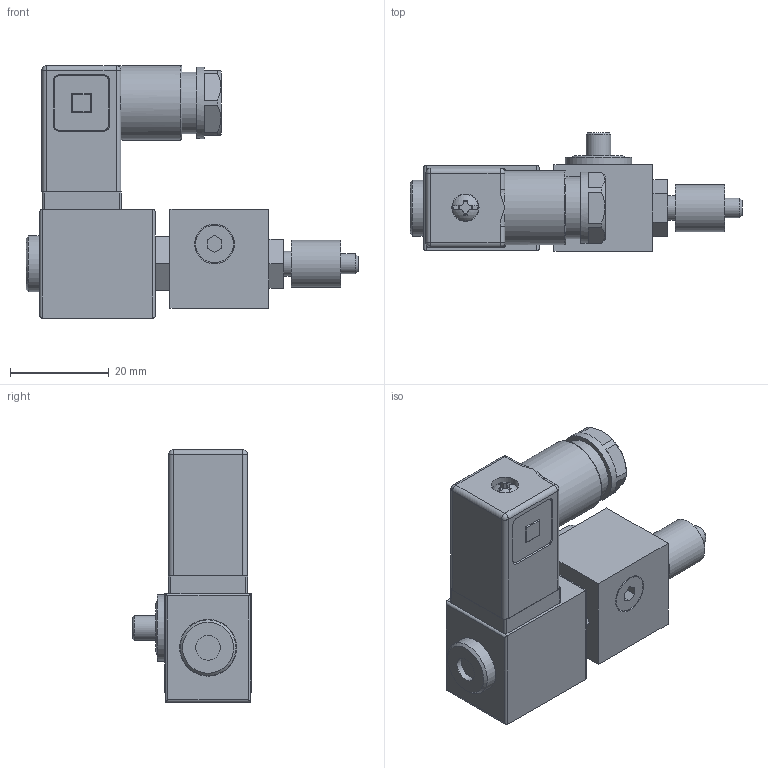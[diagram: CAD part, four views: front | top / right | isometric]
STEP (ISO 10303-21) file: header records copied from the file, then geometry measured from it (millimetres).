
FILE_DESCRIPTION(/* description */ ('Unknown'),/* implementation_level */ '2;1');
FILE_NAME(/* name */ '443457',/* time_stamp */ '2022-09-20T15:12:17+02:00',/* author */ ('Unknown'),/* organization */ ('Unknown'),/* preprocessor_version */ 'ST-DEVELOPER v16.7',/* originating_system */ 'Solid Edge',/* authorisation */ 'Unknown');
FILE_SCHEMA (('AUTOMOTIVE_DESIGN {1 0 10303 214 3 1 1}'));
Length unit declared in the file: millimetre
Products named in the file (6): 443457; 244091.2; 855951230100; 437235; 467882; 3562
Assembly tree (5 placements, depth 3):
  443457
    244091.2
    855951230100
      437235
      467882
    3562
Bounding box: 67.1 x 24 x 51 mm (x, y, z)
Volume: 24475.5 mm3; surface area: 14196 mm2
Topology: 5 solids, 6 shells, 250 faces, 600 edges, 380 vertices
Faces by surface type: plane 166, cylinder 50, cone 24, sphere 5, torus 3, bspline 2
Full cylindrical faces by diameter (mm): 2 x1, 2.5 x3, 2.8 x2, 3 x1, 4 x1, 4.22 x1, 5 x5, 5.5 x1, 7 x1, 7.4 x1, 7.6 x1, 7.9 x1, 8 x1, 9.518 x1, 10.2 x1, 11.3 x1, 11.4 x1, 11.5 x1, 12.5 x1, 13.5 x1, 14.4 x1, 15 x1
Entity records: 7206 total; most frequent: CARTESIAN_POINT 1315, DIRECTION 1178, ORIENTED_EDGE 1064, EDGE_CURVE 532, AXIS2_PLACEMENT_3D 410, VERTEX_POINT 369, LINE 358, VECTOR 358
